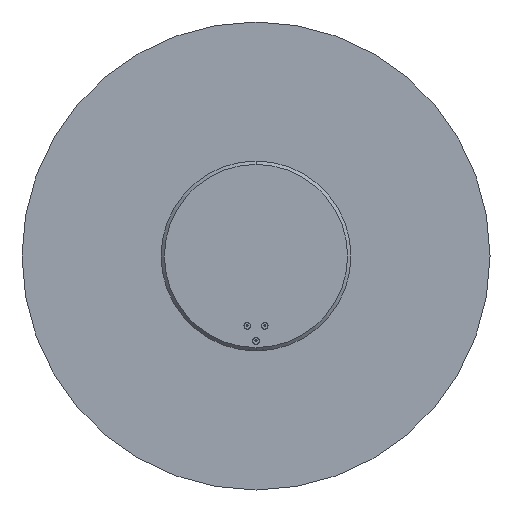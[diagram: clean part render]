
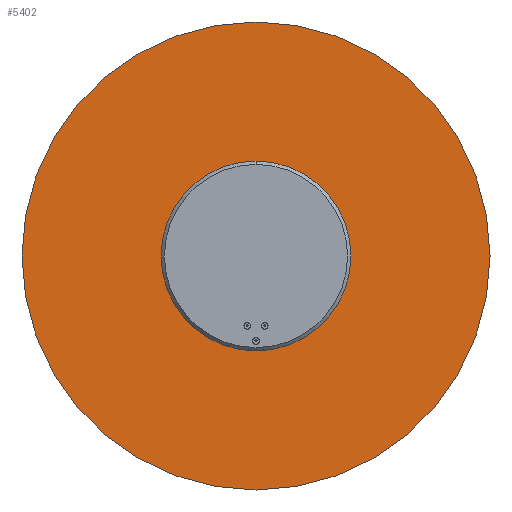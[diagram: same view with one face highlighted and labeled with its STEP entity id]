
A CAD part, front view. The second image highlights one B-rep face of the part: STEP entity #5402.
In plain terms, the highlighted planar face has unit normal (0, -1, 0).
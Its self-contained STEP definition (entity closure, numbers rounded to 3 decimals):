
#139 = EDGE_CURVE ( 'NONE', #2701, #5740, #978, .T. ) ;
#273 = CIRCLE ( 'NONE', #3187, 700. ) ;
#978 = CIRCLE ( 'NONE', #2777, 700. ) ;
#1072 = ORIENTED_EDGE ( 'NONE', *, *, #139, .F. ) ;
#2028 = DIRECTION ( 'NONE',  ( 0., 1., 0. ) ) ;
#2151 = CARTESIAN_POINT ( 'NONE',  ( 0., 0., 700. ) ) ;
#2300 = DIRECTION ( 'NONE',  ( 0., 1., 0. ) ) ;
#2510 = AXIS2_PLACEMENT_3D ( 'NONE', #5265, #2608, #6894 ) ;
#2608 = DIRECTION ( 'NONE',  ( 0., 1., 0. ) ) ;
#2701 = VERTEX_POINT ( 'NONE', #4479 ) ;
#2777 = AXIS2_PLACEMENT_3D ( 'NONE', #3597, #2028, #4619 ) ;
#3187 = AXIS2_PLACEMENT_3D ( 'NONE', #5495, #2300, #5462 ) ;
#3362 = ORIENTED_EDGE ( 'NONE', *, *, #4719, .F. ) ;
#3597 = CARTESIAN_POINT ( 'NONE',  ( 0., 0., 0. ) ) ;
#4479 = CARTESIAN_POINT ( 'NONE',  ( 0., 0., -700. ) ) ;
#4619 = DIRECTION ( 'NONE',  ( 0., 0., 1. ) ) ;
#4719 = EDGE_CURVE ( 'NONE', #5740, #2701, #273, .T. ) ;
#5265 = CARTESIAN_POINT ( 'NONE',  ( 0., 0., 0. ) ) ;
#5308 = FACE_OUTER_BOUND ( 'NONE', #6938, .T. ) ;
#5402 = ADVANCED_FACE ( 'NONE', ( #5308 ), #5806, .F. ) ;
#5462 = DIRECTION ( 'NONE',  ( 0., 0., 1. ) ) ;
#5495 = CARTESIAN_POINT ( 'NONE',  ( 0., 0., 0. ) ) ;
#5740 = VERTEX_POINT ( 'NONE', #2151 ) ;
#5806 = PLANE ( 'NONE',  #2510 ) ;
#6894 = DIRECTION ( 'NONE',  ( 0., 0., 1. ) ) ;
#6938 = EDGE_LOOP ( 'NONE', ( #1072, #3362 ) ) ;
